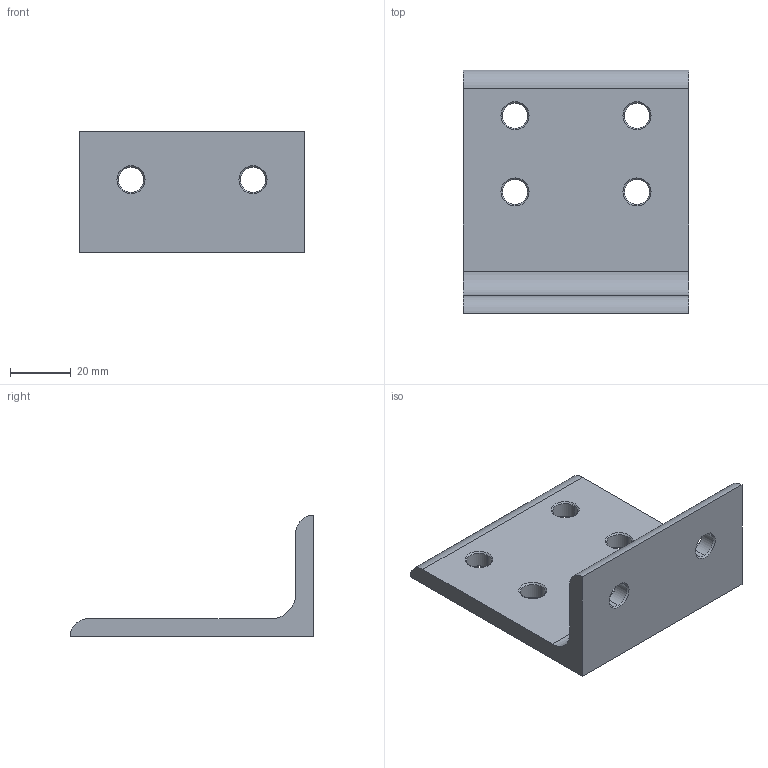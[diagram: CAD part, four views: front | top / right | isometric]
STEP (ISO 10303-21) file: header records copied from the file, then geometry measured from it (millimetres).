
FILE_DESCRIPTION (( 'STEP AP203' ), '1' );
FILE_NAME ('80õ80.STEP', '2017-04-27T11:38:24', ( '' ), ( '' ), 'SwSTEP 2.0', 'SolidWorks 2014', '' );
FILE_SCHEMA (( 'CONFIG_CONTROL_DESIGN' ));
Length unit declared in the file: millimetre
Products named in the file (1): 80õ80
Bounding box: 74 x 80 x 40 mm (x, y, z)
Volume: 48547.6 mm3; surface area: 18696.4 mm2
Topology: 1 solids, 1 shells, 45 faces, 105 edges, 62 vertices
Faces by surface type: cone 24, cylinder 15, plane 6
Entity records: 1382 total; most frequent: DIRECTION 251, CARTESIAN_POINT 213, ORIENTED_EDGE 210, EDGE_CURVE 105, AXIS2_PLACEMENT_3D 100, VERTEX_POINT 62, EDGE_LOOP 57, CIRCLE 54
